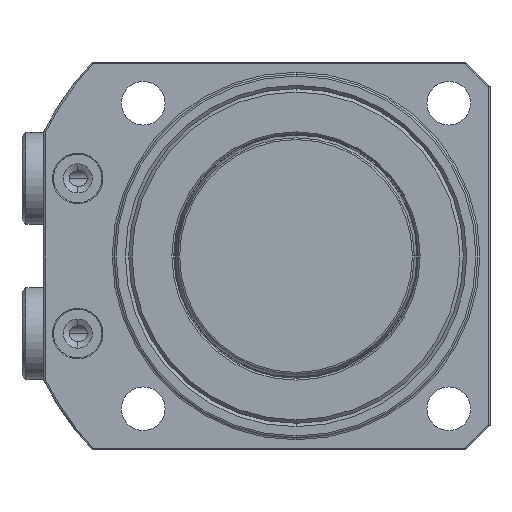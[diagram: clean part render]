
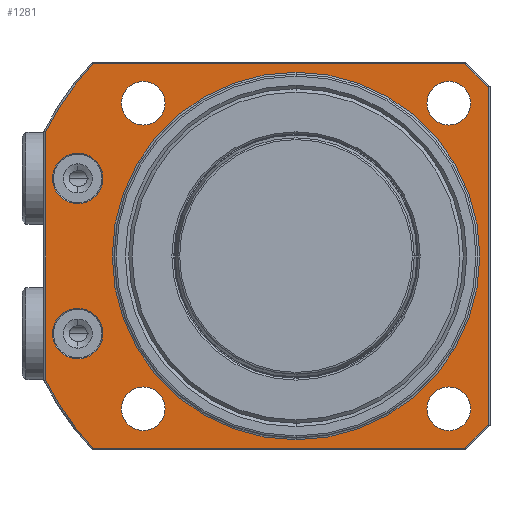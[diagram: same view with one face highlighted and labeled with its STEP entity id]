
A CAD part, front view. The second image highlights one B-rep face of the part: STEP entity #1281.
In plain terms, the highlighted planar face has unit normal (0, -1, 0) as drawn and (1, 0, 0) by its records, which use the part's own axes.
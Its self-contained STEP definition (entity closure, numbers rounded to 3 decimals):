
#998=PLANE('',#4712);
#1043=FACE_BOUND('',#1767,.T.);
#1044=FACE_BOUND('',#1768,.T.);
#1045=FACE_BOUND('',#1769,.T.);
#1046=FACE_BOUND('',#1770,.T.);
#1047=FACE_BOUND('',#1771,.T.);
#1048=FACE_BOUND('',#1772,.T.);
#1049=FACE_BOUND('',#1773,.T.);
#1050=FACE_BOUND('',#1774,.T.);
#1281=ADVANCED_FACE('',(#1043,#1044,#1045,#1046,#1047,#1048,#1049,#1050),
#998,.F.);
#1767=EDGE_LOOP('',(#2883,#2884));
#1768=EDGE_LOOP('',(#2885,#2886));
#1769=EDGE_LOOP('',(#2887,#2888,#2889,#2890,#2891,#2892,#2893,#2894));
#1770=EDGE_LOOP('',(#2895,#2896));
#1771=EDGE_LOOP('',(#2897,#2898));
#1772=EDGE_LOOP('',(#2899,#2900));
#1773=EDGE_LOOP('',(#2901,#2902));
#1774=EDGE_LOOP('',(#2903,#2904));
#2044=LINE('',#7289,#2245);
#2045=LINE('',#7292,#2246);
#2046=LINE('',#7294,#2247);
#2047=LINE('',#7296,#2248);
#2048=LINE('',#7298,#2249);
#2049=LINE('',#7302,#2250);
#2245=VECTOR('',#5585,1.);
#2246=VECTOR('',#5586,1.);
#2247=VECTOR('',#5587,1.);
#2248=VECTOR('',#5588,1.);
#2249=VECTOR('',#5589,1.);
#2250=VECTOR('',#5592,1.);
#2883=ORIENTED_EDGE('',*,*,#3901,.T.);
#2884=ORIENTED_EDGE('',*,*,#4040,.T.);
#2885=ORIENTED_EDGE('',*,*,#3897,.T.);
#2886=ORIENTED_EDGE('',*,*,#4041,.T.);
#2887=ORIENTED_EDGE('',*,*,#4042,.T.);
#2888=ORIENTED_EDGE('',*,*,#4043,.T.);
#2889=ORIENTED_EDGE('',*,*,#4044,.T.);
#2890=ORIENTED_EDGE('',*,*,#4045,.T.);
#2891=ORIENTED_EDGE('',*,*,#4046,.T.);
#2892=ORIENTED_EDGE('',*,*,#4047,.T.);
#2893=ORIENTED_EDGE('',*,*,#4048,.T.);
#2894=ORIENTED_EDGE('',*,*,#4049,.T.);
#2895=ORIENTED_EDGE('',*,*,#4050,.T.);
#2896=ORIENTED_EDGE('',*,*,#3907,.T.);
#2897=ORIENTED_EDGE('',*,*,#4051,.T.);
#2898=ORIENTED_EDGE('',*,*,#3995,.T.);
#2899=ORIENTED_EDGE('',*,*,#4052,.T.);
#2900=ORIENTED_EDGE('',*,*,#4003,.T.);
#2901=ORIENTED_EDGE('',*,*,#4053,.T.);
#2902=ORIENTED_EDGE('',*,*,#4011,.T.);
#2903=ORIENTED_EDGE('',*,*,#4054,.T.);
#2904=ORIENTED_EDGE('',*,*,#4019,.T.);
#3488=VERTEX_POINT('',#6756);
#3489=VERTEX_POINT('',#6758);
#3492=VERTEX_POINT('',#6765);
#3493=VERTEX_POINT('',#6767);
#3498=VERTEX_POINT('',#6780);
#3499=VERTEX_POINT('',#6781);
#3568=VERTEX_POINT('',#7134);
#3569=VERTEX_POINT('',#7135);
#3576=VERTEX_POINT('',#7161);
#3577=VERTEX_POINT('',#7162);
#3584=VERTEX_POINT('',#7188);
#3585=VERTEX_POINT('',#7189);
#3592=VERTEX_POINT('',#7215);
#3593=VERTEX_POINT('',#7216);
#3604=VERTEX_POINT('',#7290);
#3605=VERTEX_POINT('',#7291);
#3606=VERTEX_POINT('',#7293);
#3607=VERTEX_POINT('',#7295);
#3608=VERTEX_POINT('',#7297);
#3609=VERTEX_POINT('',#7299);
#3610=VERTEX_POINT('',#7301);
#3611=VERTEX_POINT('',#7303);
#3897=EDGE_CURVE('',#3489,#3488,#4292,.T.);
#3901=EDGE_CURVE('',#3493,#3492,#4294,.T.);
#3907=EDGE_CURVE('',#3498,#3499,#4299,.T.);
#3995=EDGE_CURVE('',#3568,#3569,#4336,.T.);
#4003=EDGE_CURVE('',#3576,#3577,#4339,.T.);
#4011=EDGE_CURVE('',#3584,#3585,#4342,.T.);
#4019=EDGE_CURVE('',#3592,#3593,#4345,.T.);
#4040=EDGE_CURVE('',#3492,#3493,#4353,.T.);
#4041=EDGE_CURVE('',#3488,#3489,#4354,.T.);
#4042=EDGE_CURVE('',#3604,#3605,#2044,.T.);
#4043=EDGE_CURVE('',#3605,#3606,#2045,.T.);
#4044=EDGE_CURVE('',#3606,#3607,#2046,.T.);
#4045=EDGE_CURVE('',#3607,#3608,#2047,.T.);
#4046=EDGE_CURVE('',#3608,#3609,#2048,.T.);
#4047=EDGE_CURVE('',#3609,#3610,#4355,.T.);
#4048=EDGE_CURVE('',#3610,#3611,#2049,.T.);
#4049=EDGE_CURVE('',#3611,#3604,#4356,.T.);
#4050=EDGE_CURVE('',#3499,#3498,#4357,.T.);
#4051=EDGE_CURVE('',#3569,#3568,#4358,.T.);
#4052=EDGE_CURVE('',#3577,#3576,#4359,.T.);
#4053=EDGE_CURVE('',#3585,#3584,#4360,.T.);
#4054=EDGE_CURVE('',#3593,#3592,#4361,.T.);
#4292=CIRCLE('',#4606,5.2);
#4294=CIRCLE('',#4609,5.2);
#4299=CIRCLE('',#4616,37.9);
#4336=CIRCLE('',#4675,4.5);
#4339=CIRCLE('',#4680,4.5);
#4342=CIRCLE('',#4685,4.5);
#4345=CIRCLE('',#4690,4.5);
#4353=CIRCLE('',#4703,5.2);
#4354=CIRCLE('',#4704,5.2);
#4355=CIRCLE('',#4705,57.6);
#4356=CIRCLE('',#4706,57.6);
#4357=CIRCLE('',#4707,37.9);
#4358=CIRCLE('',#4708,4.5);
#4359=CIRCLE('',#4709,4.5);
#4360=CIRCLE('',#4710,4.5);
#4361=CIRCLE('',#4711,4.5);
#4606=AXIS2_PLACEMENT_3D('',#6757,#5328,#5329);
#4609=AXIS2_PLACEMENT_3D('',#6766,#5336,#5337);
#4616=AXIS2_PLACEMENT_3D('',#6779,#5351,#5352);
#4675=AXIS2_PLACEMENT_3D('',#7133,#5507,#5508);
#4680=AXIS2_PLACEMENT_3D('',#7160,#5521,#5522);
#4685=AXIS2_PLACEMENT_3D('',#7187,#5535,#5536);
#4690=AXIS2_PLACEMENT_3D('',#7214,#5549,#5550);
#4703=AXIS2_PLACEMENT_3D('',#7287,#5581,#5582);
#4704=AXIS2_PLACEMENT_3D('',#7288,#5583,#5584);
#4705=AXIS2_PLACEMENT_3D('',#7300,#5590,#5591);
#4706=AXIS2_PLACEMENT_3D('',#7304,#5593,#5594);
#4707=AXIS2_PLACEMENT_3D('',#7305,#5595,#5596);
#4708=AXIS2_PLACEMENT_3D('',#7306,#5597,#5598);
#4709=AXIS2_PLACEMENT_3D('',#7307,#5599,#5600);
#4710=AXIS2_PLACEMENT_3D('',#7308,#5601,#5602);
#4711=AXIS2_PLACEMENT_3D('',#7309,#5603,#5604);
#4712=AXIS2_PLACEMENT_3D('',#7310,#5605,#5606);
#5328=DIRECTION('',(-1.,0.,0.));
#5329=DIRECTION('',(0.,0.,1.));
#5336=DIRECTION('',(-1.,0.,0.));
#5337=DIRECTION('',(0.,0.,1.));
#5351=DIRECTION('',(-1.,0.,0.));
#5352=DIRECTION('',(0.,0.,1.));
#5507=DIRECTION('',(-1.,0.,0.));
#5508=DIRECTION('',(0.,0.,1.));
#5521=DIRECTION('',(-1.,0.,0.));
#5522=DIRECTION('',(0.,0.,1.));
#5535=DIRECTION('',(-1.,0.,0.));
#5536=DIRECTION('',(0.,0.,1.));
#5549=DIRECTION('',(-1.,0.,0.));
#5550=DIRECTION('',(0.,0.,1.));
#5581=DIRECTION('',(-1.,0.,0.));
#5582=DIRECTION('',(0.,0.,1.));
#5583=DIRECTION('',(-1.,0.,0.));
#5584=DIRECTION('',(0.,0.,1.));
#5585=DIRECTION('',(0.,1.,0.));
#5586=DIRECTION('',(0.,0.707,0.707));
#5587=DIRECTION('',(0.,0.,1.));
#5588=DIRECTION('',(0.,-0.707,0.707));
#5589=DIRECTION('',(0.,-1.,0.));
#5590=DIRECTION('',(1.,0.,0.));
#5591=DIRECTION('',(0.,0.,1.));
#5592=DIRECTION('',(0.,0.,-1.));
#5593=DIRECTION('',(1.,0.,0.));
#5594=DIRECTION('',(0.,0.,1.));
#5595=DIRECTION('',(-1.,0.,0.));
#5596=DIRECTION('',(0.,0.,1.));
#5597=DIRECTION('',(-1.,0.,0.));
#5598=DIRECTION('',(0.,0.,1.));
#5599=DIRECTION('',(-1.,0.,0.));
#5600=DIRECTION('',(0.,0.,1.));
#5601=DIRECTION('',(-1.,0.,0.));
#5602=DIRECTION('',(0.,0.,1.));
#5603=DIRECTION('',(-1.,0.,0.));
#5604=DIRECTION('',(0.,0.,1.));
#5605=DIRECTION('',(-1.,0.,0.));
#5606=DIRECTION('',(0.,0.,-1.));
#6756=CARTESIAN_POINT('',(0.,-45.,21.2));
#6757=CARTESIAN_POINT('',(0.,-45.,16.));
#6758=CARTESIAN_POINT('',(0.,-45.,10.8));
#6765=CARTESIAN_POINT('',(0.,-45.,-10.8));
#6766=CARTESIAN_POINT('',(0.,-45.,-16.));
#6767=CARTESIAN_POINT('',(0.,-45.,-21.2));
#6779=CARTESIAN_POINT('',(0.,0.,0.));
#6780=CARTESIAN_POINT('',(0.,0.,-37.9));
#6781=CARTESIAN_POINT('',(0.,0.,37.9));
#7133=CARTESIAN_POINT('',(0.,31.5,31.5));
#7134=CARTESIAN_POINT('',(0.,31.5,27.));
#7135=CARTESIAN_POINT('',(0.,31.5,36.));
#7160=CARTESIAN_POINT('',(0.,31.5,-31.5));
#7161=CARTESIAN_POINT('',(0.,31.5,-36.));
#7162=CARTESIAN_POINT('',(0.,31.5,-27.));
#7187=CARTESIAN_POINT('',(0.,-31.5,-31.5));
#7188=CARTESIAN_POINT('',(0.,-31.5,-36.));
#7189=CARTESIAN_POINT('',(0.,-31.5,-27.));
#7214=CARTESIAN_POINT('',(0.,-31.5,31.5));
#7215=CARTESIAN_POINT('',(0.,-31.5,27.));
#7216=CARTESIAN_POINT('',(0.,-31.5,36.));
#7287=CARTESIAN_POINT('',(0.,-45.,-16.));
#7288=CARTESIAN_POINT('',(0.,-45.,16.));
#7289=CARTESIAN_POINT('',(0.,35.,-39.6));
#7290=CARTESIAN_POINT('',(0.,-41.828,-39.6));
#7291=CARTESIAN_POINT('',(0.,34.834,-39.6));
#7292=CARTESIAN_POINT('',(0.,39.717,-34.717));
#7293=CARTESIAN_POINT('',(0.,39.6,-34.834));
#7294=CARTESIAN_POINT('',(0.,39.6,35.));
#7295=CARTESIAN_POINT('',(0.,39.6,34.834));
#7296=CARTESIAN_POINT('',(0.,34.717,39.717));
#7297=CARTESIAN_POINT('',(0.,34.834,39.6));
#7298=CARTESIAN_POINT('',(0.,-42.,39.6));
#7299=CARTESIAN_POINT('',(0.,-41.828,39.6));
#7300=CARTESIAN_POINT('',(0.,0.,0.));
#7301=CARTESIAN_POINT('',(0.,-51.6,25.597));
#7302=CARTESIAN_POINT('',(0.,-51.6,-25.69));
#7303=CARTESIAN_POINT('',(0.,-51.6,-25.597));
#7304=CARTESIAN_POINT('',(0.,0.,0.));
#7305=CARTESIAN_POINT('',(0.,0.,0.));
#7306=CARTESIAN_POINT('',(0.,31.5,31.5));
#7307=CARTESIAN_POINT('',(0.,31.5,-31.5));
#7308=CARTESIAN_POINT('',(0.,-31.5,-31.5));
#7309=CARTESIAN_POINT('',(0.,-31.5,31.5));
#7310=CARTESIAN_POINT('',(0.,0.,0.));
